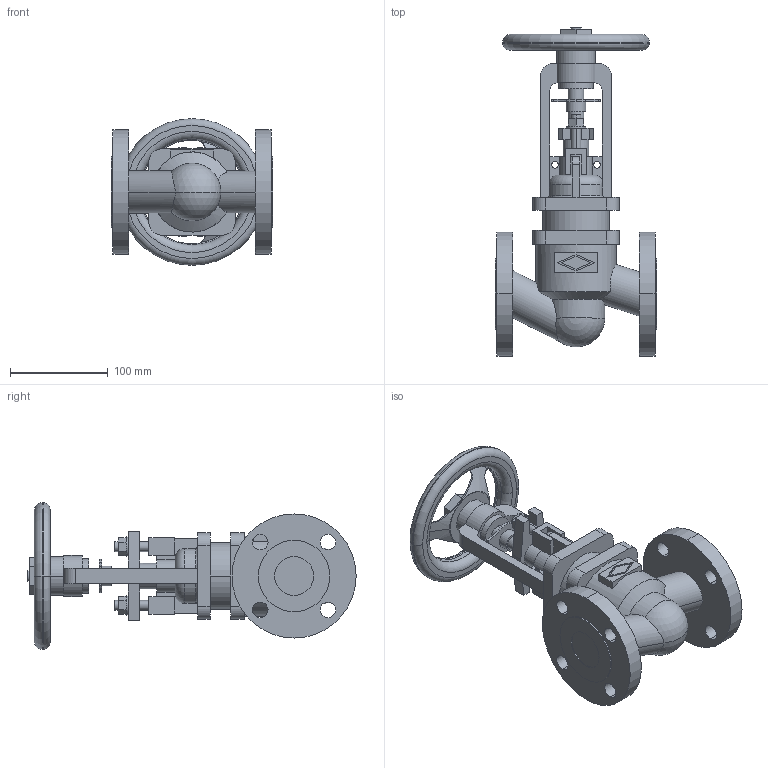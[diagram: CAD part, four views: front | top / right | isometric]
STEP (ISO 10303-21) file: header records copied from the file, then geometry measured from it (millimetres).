
FILE_DESCRIPTION(('OneSpaceDesigner STEP Export'),'2;1');
FILE_NAME('c000004205.stp','2010-04-30T 8:19:11',(''),(''),'OneSpace Designer STEP processor for AP214 (Solid Model)','OneSpace Modeling 15.50B 03-Nov-2007 (C) CoCreate Software GmbH','');
FILE_SCHEMA(('AUTOMOTIVE_DESIGN { 1 0 10303 214 1 1 1 1 }'));
Length unit declared in the file: millimetre
Products named in the file (1): 1
Bounding box: 165 x 335.9 x 150 mm (x, y, z)
Volume: 1566607.7 mm3; surface area: 214333.2 mm2
Topology: 1 solids, 1 shells, 285 faces, 764 edges, 503 vertices
Faces by surface type: plane 140, cylinder 117, torus 18, cone 8, sphere 2
Entity records: 11464 total; most frequent: CARTESIAN_POINT 2372, ORIENTED_EDGE 1516, DIRECTION 1269, EDGE_CURVE 758, VERTEX_POINT 499, AXIS2_PLACEMENT_3D 429, VECTOR 411, LINE 411
